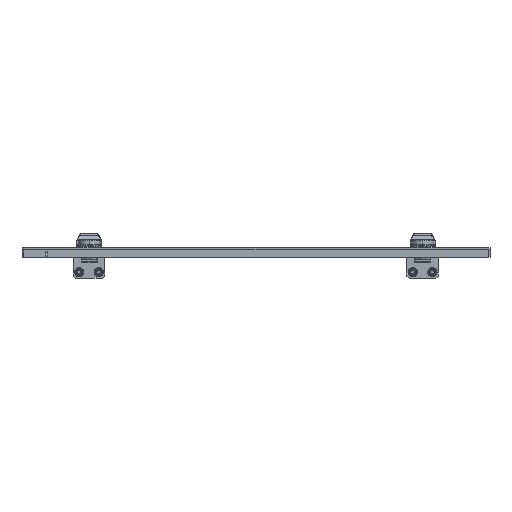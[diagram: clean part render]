
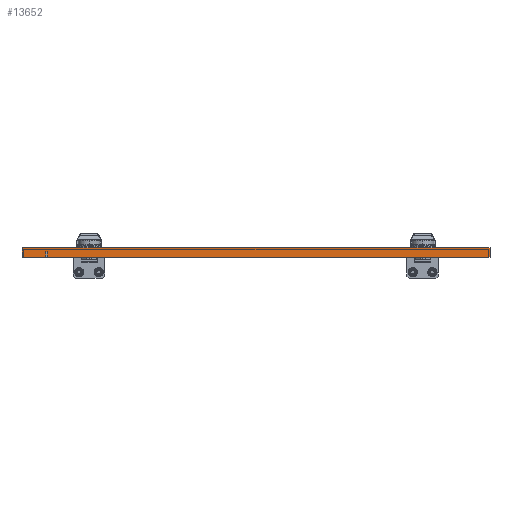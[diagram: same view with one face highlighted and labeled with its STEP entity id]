
A CAD part, front view. The second image highlights one B-rep face of the part: STEP entity #13652.
In plain terms, the highlighted planar face has unit normal (0, -1, 0).
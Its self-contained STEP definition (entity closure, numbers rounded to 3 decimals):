
#311 = VERTEX_POINT ( 'NONE', #12091 ) ;
#327 = VECTOR ( 'NONE', #3374, 1000. ) ;
#355 = EDGE_CURVE ( 'NONE', #8053, #14902, #5275, .T. ) ;
#1715 = CARTESIAN_POINT ( 'NONE',  ( -265.819, -297.5, 7.5 ) ) ;
#2115 = ORIENTED_EDGE ( 'NONE', *, *, #5222, .T. ) ;
#2454 = DIRECTION ( 'NONE',  ( 1., 0., 0. ) ) ;
#2956 = VERTEX_POINT ( 'NONE', #12712 ) ;
#3086 = VECTOR ( 'NONE', #5019, 1000. ) ;
#3374 = DIRECTION ( 'NONE',  ( -1., 0., 0. ) ) ;
#3476 = VECTOR ( 'NONE', #2454, 1000. ) ;
#3901 = EDGE_CURVE ( 'NONE', #8053, #2956, #6464, .T. ) ;
#4444 = VECTOR ( 'NONE', #5626, 1000. ) ;
#5019 = DIRECTION ( 'NONE',  ( 1., 0., 0. ) ) ;
#5163 = LINE ( 'NONE', #14021, #8525 ) ;
#5222 = EDGE_CURVE ( 'NONE', #7021, #7582, #5163, .T. ) ;
#5275 = LINE ( 'NONE', #15910, #12331 ) ;
#5626 = DIRECTION ( 'NONE',  ( 0., 0., 1. ) ) ;
#6145 = LINE ( 'NONE', #13430, #11022 ) ;
#6464 = LINE ( 'NONE', #18290, #327 ) ;
#6952 = CARTESIAN_POINT ( 'NONE',  ( 298., -297.5, 0. ) ) ;
#7021 = VERTEX_POINT ( 'NONE', #10809 ) ;
#7291 = AXIS2_PLACEMENT_3D ( 'NONE', #13986, #17425, #17323 ) ;
#7535 = EDGE_LOOP ( 'NONE', ( #18426, #16665, #13026, #9339, #11060, #15917, #17722, #2115 ) ) ;
#7582 = VERTEX_POINT ( 'NONE', #17734 ) ;
#7986 = FACE_OUTER_BOUND ( 'NONE', #7535, .T. ) ;
#8053 = VERTEX_POINT ( 'NONE', #1715 ) ;
#8091 = VERTEX_POINT ( 'NONE', #9019 ) ;
#8358 = PLANE ( 'NONE',  #7291 ) ;
#8525 = VECTOR ( 'NONE', #15297, 1000. ) ;
#9019 = CARTESIAN_POINT ( 'NONE',  ( -267.819, -297.5, 0. ) ) ;
#9339 = ORIENTED_EDGE ( 'NONE', *, *, #355, .T. ) ;
#9562 = CARTESIAN_POINT ( 'NONE',  ( -298., -297.5, 0. ) ) ;
#10809 = CARTESIAN_POINT ( 'NONE',  ( -298., -297.5, 12.5 ) ) ;
#11022 = VECTOR ( 'NONE', #16391, 1000. ) ;
#11060 = ORIENTED_EDGE ( 'NONE', *, *, #17595, .T. ) ;
#11129 = EDGE_CURVE ( 'NONE', #7582, #8091, #18531, .T. ) ;
#12091 = CARTESIAN_POINT ( 'NONE',  ( 298., -297.5, 12.5 ) ) ;
#12331 = VECTOR ( 'NONE', #15626, 1000. ) ;
#12595 = DIRECTION ( 'NONE',  ( 1., 0., 0. ) ) ;
#12712 = CARTESIAN_POINT ( 'NONE',  ( -267.819, -297.5, 7.5 ) ) ;
#13026 = ORIENTED_EDGE ( 'NONE', *, *, #3901, .F. ) ;
#13046 = EDGE_CURVE ( 'NONE', #7021, #311, #18850, .T. ) ;
#13430 = CARTESIAN_POINT ( 'NONE',  ( 298., -297.5, 12.5 ) ) ;
#13652 = ADVANCED_FACE ( 'NONE', ( #7986 ), #8358, .F. ) ;
#13931 = EDGE_CURVE ( 'NONE', #8091, #2956, #14790, .T. ) ;
#13986 = CARTESIAN_POINT ( 'NONE',  ( -298., -297.5, 12.5 ) ) ;
#14021 = CARTESIAN_POINT ( 'NONE',  ( -298., -297.5, 12.5 ) ) ;
#14790 = LINE ( 'NONE', #19519, #4444 ) ;
#14902 = VERTEX_POINT ( 'NONE', #18701 ) ;
#15297 = DIRECTION ( 'NONE',  ( 0., 0., -1. ) ) ;
#15626 = DIRECTION ( 'NONE',  ( 0., 0., -1. ) ) ;
#15734 = VECTOR ( 'NONE', #12595, 1000. ) ;
#15795 = CARTESIAN_POINT ( 'NONE',  ( -298., -297.5, 12.5 ) ) ;
#15910 = CARTESIAN_POINT ( 'NONE',  ( -265.819, -297.5, 12.5 ) ) ;
#15917 = ORIENTED_EDGE ( 'NONE', *, *, #16850, .F. ) ;
#16391 = DIRECTION ( 'NONE',  ( 0., 0., -1. ) ) ;
#16665 = ORIENTED_EDGE ( 'NONE', *, *, #13931, .T. ) ;
#16722 = VERTEX_POINT ( 'NONE', #6952 ) ;
#16850 = EDGE_CURVE ( 'NONE', #311, #16722, #6145, .T. ) ;
#16929 = LINE ( 'NONE', #9562, #15734 ) ;
#17232 = CARTESIAN_POINT ( 'NONE',  ( -298., -297.5, 0. ) ) ;
#17323 = DIRECTION ( 'NONE',  ( 1., 0., 0. ) ) ;
#17425 = DIRECTION ( 'NONE',  ( 0., 1., 0. ) ) ;
#17595 = EDGE_CURVE ( 'NONE', #14902, #16722, #16929, .T. ) ;
#17722 = ORIENTED_EDGE ( 'NONE', *, *, #13046, .F. ) ;
#17734 = CARTESIAN_POINT ( 'NONE',  ( -298., -297.5, 0. ) ) ;
#18290 = CARTESIAN_POINT ( 'NONE',  ( -298., -297.5, 7.5 ) ) ;
#18426 = ORIENTED_EDGE ( 'NONE', *, *, #11129, .T. ) ;
#18531 = LINE ( 'NONE', #17232, #3086 ) ;
#18701 = CARTESIAN_POINT ( 'NONE',  ( -265.819, -297.5, 0. ) ) ;
#18850 = LINE ( 'NONE', #15795, #3476 ) ;
#19519 = CARTESIAN_POINT ( 'NONE',  ( -267.819, -297.5, 12.5 ) ) ;
